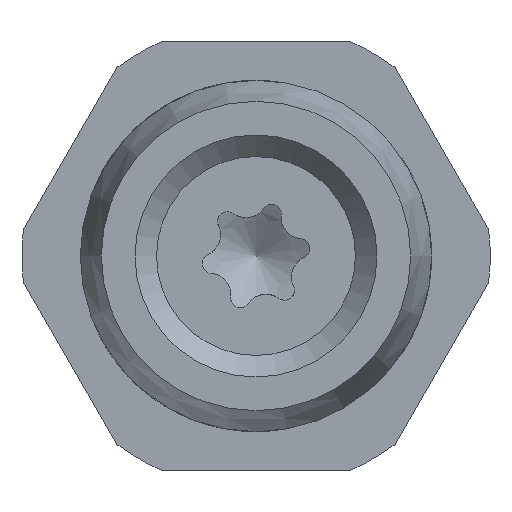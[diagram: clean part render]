
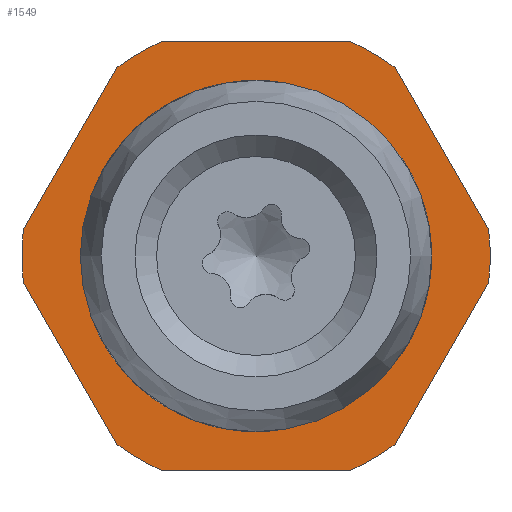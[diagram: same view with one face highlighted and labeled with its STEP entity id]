
A CAD part, front view. The second image highlights one B-rep face of the part: STEP entity #1549.
In plain terms, the highlighted planar face has unit normal (0, -1, 0).
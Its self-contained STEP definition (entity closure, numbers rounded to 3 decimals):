
#109=LINE('',#2655,#200);
#110=LINE('',#2657,#201);
#111=LINE('',#2659,#202);
#112=LINE('',#2661,#203);
#113=LINE('',#2663,#204);
#114=LINE('',#2665,#205);
#200=VECTOR('',#2037,10.);
#201=VECTOR('',#2040,10.);
#202=VECTOR('',#2043,10.);
#203=VECTOR('',#2046,10.);
#204=VECTOR('',#2049,10.);
#205=VECTOR('',#2052,10.);
#302=FACE_BOUND('',#442,.T.);
#351=FACE_OUTER_BOUND('',#441,.T.);
#441=EDGE_LOOP('',(#1203,#1204,#1205,#1206,#1207,#1208,#1209,#1210,#1211,
#1212,#1213,#1214));
#442=EDGE_LOOP('',(#1215,#1216));
#525=CIRCLE('',#1669,6.);
#543=CIRCLE('',#1698,6.);
#545=CIRCLE('',#1701,6.);
#547=CIRCLE('',#1704,6.);
#550=CIRCLE('',#1708,6.);
#551=CIRCLE('',#1710,6.);
#554=CIRCLE('',#1724,4.5);
#555=CIRCLE('',#1725,4.5);
#620=VERTEX_POINT('',#2349);
#623=VERTEX_POINT('',#2354);
#653=VERTEX_POINT('',#2604);
#654=VERTEX_POINT('',#2606);
#657=VERTEX_POINT('',#2613);
#658=VERTEX_POINT('',#2615);
#661=VERTEX_POINT('',#2622);
#662=VERTEX_POINT('',#2624);
#664=VERTEX_POINT('',#2630);
#667=VERTEX_POINT('',#2635);
#669=VERTEX_POINT('',#2640);
#670=VERTEX_POINT('',#2642);
#673=VERTEX_POINT('',#2674);
#674=VERTEX_POINT('',#2675);
#794=EDGE_CURVE('',#623,#620,#525,.T.);
#833=EDGE_CURVE('',#653,#654,#543,.T.);
#837=EDGE_CURVE('',#657,#658,#545,.T.);
#841=EDGE_CURVE('',#661,#662,#547,.T.);
#847=EDGE_CURVE('',#667,#664,#550,.T.);
#849=EDGE_CURVE('',#669,#670,#551,.T.);
#858=EDGE_CURVE('',#667,#670,#109,.T.);
#859=EDGE_CURVE('',#623,#664,#110,.T.);
#860=EDGE_CURVE('',#669,#662,#111,.T.);
#861=EDGE_CURVE('',#661,#658,#112,.T.);
#862=EDGE_CURVE('',#657,#654,#113,.T.);
#863=EDGE_CURVE('',#653,#620,#114,.T.);
#867=EDGE_CURVE('',#673,#674,#554,.T.);
#868=EDGE_CURVE('',#674,#673,#555,.T.);
#1203=ORIENTED_EDGE('',*,*,#863,.T.);
#1204=ORIENTED_EDGE('',*,*,#794,.F.);
#1205=ORIENTED_EDGE('',*,*,#859,.T.);
#1206=ORIENTED_EDGE('',*,*,#847,.F.);
#1207=ORIENTED_EDGE('',*,*,#858,.T.);
#1208=ORIENTED_EDGE('',*,*,#849,.F.);
#1209=ORIENTED_EDGE('',*,*,#860,.T.);
#1210=ORIENTED_EDGE('',*,*,#841,.F.);
#1211=ORIENTED_EDGE('',*,*,#861,.T.);
#1212=ORIENTED_EDGE('',*,*,#837,.F.);
#1213=ORIENTED_EDGE('',*,*,#862,.T.);
#1214=ORIENTED_EDGE('',*,*,#833,.F.);
#1215=ORIENTED_EDGE('',*,*,#867,.T.);
#1216=ORIENTED_EDGE('',*,*,#868,.T.);
#1433=PLANE('',#1723);
#1549=ADVANCED_FACE('',(#351,#302),#1433,.T.);
#1669=AXIS2_PLACEMENT_3D('',#2356,#1921,#1922);
#1698=AXIS2_PLACEMENT_3D('',#2607,#1990,#1991);
#1701=AXIS2_PLACEMENT_3D('',#2616,#1998,#1999);
#1704=AXIS2_PLACEMENT_3D('',#2625,#2006,#2007);
#1708=AXIS2_PLACEMENT_3D('',#2637,#2017,#2018);
#1710=AXIS2_PLACEMENT_3D('',#2643,#2022,#2023);
#1723=AXIS2_PLACEMENT_3D('',#2673,#2063,#2064);
#1724=AXIS2_PLACEMENT_3D('',#2676,#2065,#2066);
#1725=AXIS2_PLACEMENT_3D('',#2677,#2067,#2068);
#1921=DIRECTION('center_axis',(0.,1.,0.));
#1922=DIRECTION('ref_axis',(-1.,0.,0.));
#1990=DIRECTION('center_axis',(0.,1.,0.));
#1991=DIRECTION('ref_axis',(-1.,0.,0.));
#1998=DIRECTION('center_axis',(0.,1.,0.));
#1999=DIRECTION('ref_axis',(-1.,0.,0.));
#2006=DIRECTION('center_axis',(0.,1.,0.));
#2007=DIRECTION('ref_axis',(-1.,0.,0.));
#2017=DIRECTION('center_axis',(0.,1.,0.));
#2018=DIRECTION('ref_axis',(-1.,0.,0.));
#2022=DIRECTION('center_axis',(0.,1.,0.));
#2023=DIRECTION('ref_axis',(-1.,0.,0.));
#2037=DIRECTION('',(0.5,0.,-0.866));
#2040=DIRECTION('',(-0.5,0.,-0.866));
#2043=DIRECTION('',(1.,0.,0.));
#2046=DIRECTION('',(0.5,0.,0.866));
#2049=DIRECTION('',(-0.5,0.,0.866));
#2052=DIRECTION('',(-1.,0.,0.));
#2063=DIRECTION('center_axis',(0.,-1.,0.));
#2064=DIRECTION('ref_axis',(0.,0.,
-1.));
#2065=DIRECTION('center_axis',(0.,1.,0.));
#2066=DIRECTION('ref_axis',(0.5,0.,0.866));
#2067=DIRECTION('center_axis',(0.,1.,0.));
#2068=DIRECTION('ref_axis',(0.5,0.,0.866));
#2349=CARTESIAN_POINT('',(-2.398,19.,5.5));
#2354=CARTESIAN_POINT('',(-3.564,19.,4.827));
#2356=CARTESIAN_POINT('Origin',(0.,19.,0.));
#2604=CARTESIAN_POINT('',(2.398,19.,5.5));
#2606=CARTESIAN_POINT('',(3.564,19.,4.827));
#2607=CARTESIAN_POINT('Origin',(0.,19.,0.));
#2613=CARTESIAN_POINT('',(5.962,19.,0.673));
#2615=CARTESIAN_POINT('',(5.962,19.,-0.673));
#2616=CARTESIAN_POINT('Origin',(0.,19.,0.));
#2622=CARTESIAN_POINT('',(3.564,19.,-4.827));
#2624=CARTESIAN_POINT('',(2.398,19.,-5.5));
#2625=CARTESIAN_POINT('Origin',(0.,19.,0.));
#2630=CARTESIAN_POINT('',(-5.962,19.,0.673));
#2635=CARTESIAN_POINT('',(-5.962,19.,-0.673));
#2637=CARTESIAN_POINT('Origin',(0.,19.,0.));
#2640=CARTESIAN_POINT('',(-2.398,19.,-5.5));
#2642=CARTESIAN_POINT('',(-3.564,19.,-4.827));
#2643=CARTESIAN_POINT('Origin',(0.,19.,0.));
#2655=CARTESIAN_POINT('',(-4.56,19.,-3.102));
#2657=CARTESIAN_POINT('',(-6.148,19.,0.352));
#2659=CARTESIAN_POINT('',(-0.775,19.,-5.5));
#2661=CARTESIAN_POINT('',(4.966,19.,-2.398));
#2663=CARTESIAN_POINT('',(3.379,19.,5.148));
#2665=CARTESIAN_POINT('',(-3.95,19.,5.5));
#2673=CARTESIAN_POINT('Origin',(-4.725,19.,0.));
#2674=CARTESIAN_POINT('',(2.25,19.,3.897));
#2675=CARTESIAN_POINT('',(-2.25,19.,-3.897));
#2676=CARTESIAN_POINT('Origin',(0.,19.,0.));
#2677=CARTESIAN_POINT('Origin',(0.,19.,0.));
